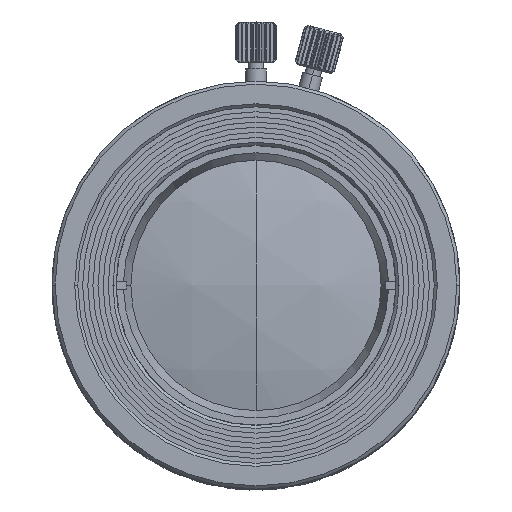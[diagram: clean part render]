
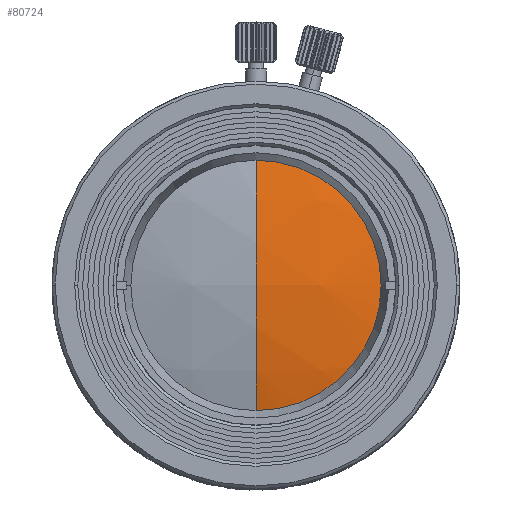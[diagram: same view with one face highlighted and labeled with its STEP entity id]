
A CAD part, top view. The second image highlights one B-rep face of the part: STEP entity #80724.
In plain terms, the highlighted spherical face has radius 51.4 mm.
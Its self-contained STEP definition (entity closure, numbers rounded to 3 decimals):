
#1374 = CIRCLE ( 'NONE', #46376, 12.475 ) ;
#1436 = FACE_OUTER_BOUND ( 'NONE', #57505, .T. ) ;
#3455 = DIRECTION ( 'NONE',  ( -1., 0., 0. ) ) ;
#4111 = EDGE_CURVE ( 'NONE', #31681, #33726, #34911, .T. ) ;
#6821 = ORIENTED_EDGE ( 'NONE', *, *, #48130, .F. ) ;
#13274 = EDGE_CURVE ( 'NONE', #68894, #31681, #1374, .T. ) ;
#15537 = CARTESIAN_POINT ( 'NONE',  ( 0., 0., -26.75 ) ) ;
#22340 = DIRECTION ( 'NONE',  ( 0., 1., 0. ) ) ;
#25031 = DIRECTION ( 'NONE',  ( 0., 0., -1. ) ) ;
#30362 = CARTESIAN_POINT ( 'NONE',  ( 0., 0., -26.75 ) ) ;
#30444 = CARTESIAN_POINT ( 'NONE',  ( 0., -12.475, 23.113 ) ) ;
#31681 = VERTEX_POINT ( 'NONE', #30444 ) ;
#31814 = AXIS2_PLACEMENT_3D ( 'NONE', #37981, #78983, #85825 ) ;
#32536 = ORIENTED_EDGE ( 'NONE', *, *, #13274, .F. ) ;
#33726 = VERTEX_POINT ( 'NONE', #67227 ) ;
#34911 = CIRCLE ( 'NONE', #60967, 51.4 ) ;
#36710 = CIRCLE ( 'NONE', #76065, 51.4 ) ;
#37190 = DIRECTION ( 'NONE',  ( 0., 0., 1. ) ) ;
#37981 = CARTESIAN_POINT ( 'NONE',  ( 0., 0., -26.75 ) ) ;
#44189 = DIRECTION ( 'NONE',  ( 0., 0., -1. ) ) ;
#46336 = ORIENTED_EDGE ( 'NONE', *, *, #74555, .T. ) ;
#46376 = AXIS2_PLACEMENT_3D ( 'NONE', #65787, #25031, #72585 ) ;
#48130 = EDGE_CURVE ( 'NONE', #61993, #68894, #52170, .T. ) ;
#52170 = CIRCLE ( 'NONE', #78194, 12.475 ) ;
#53541 = SPHERICAL_SURFACE ( 'NONE', #31814, 51.4 ) ;
#53811 = ORIENTED_EDGE ( 'NONE', *, *, #4111, .F. ) ;
#57505 = EDGE_LOOP ( 'NONE', ( #6821, #46336, #53811, #32536 ) ) ;
#60967 = AXIS2_PLACEMENT_3D ( 'NONE', #30362, #77895, #37190 ) ;
#61993 = VERTEX_POINT ( 'NONE', #87745 ) ;
#63110 = DIRECTION ( 'NONE',  ( 1., 0., 0. ) ) ;
#63954 = CARTESIAN_POINT ( 'NONE',  ( 12.475, 0., 23.113 ) ) ;
#65787 = CARTESIAN_POINT ( 'NONE',  ( 0., 0., 23.113 ) ) ;
#67227 = CARTESIAN_POINT ( 'NONE',  ( 0., 0., 24.65 ) ) ;
#68894 = VERTEX_POINT ( 'NONE', #63954 ) ;
#72585 = DIRECTION ( 'NONE',  ( -1., 0., 0. ) ) ;
#74555 = EDGE_CURVE ( 'NONE', #61993, #33726, #36710, .T. ) ;
#76065 = AXIS2_PLACEMENT_3D ( 'NONE', #15537, #63110, #22340 ) ;
#77895 = DIRECTION ( 'NONE',  ( -1., 0., 0. ) ) ;
#78194 = AXIS2_PLACEMENT_3D ( 'NONE', #84913, #44189, #3455 ) ;
#78983 = DIRECTION ( 'NONE',  ( 1., 0., 0. ) ) ;
#80724 = ADVANCED_FACE ( 'NONE', ( #1436 ), #53541, .T. ) ;
#84913 = CARTESIAN_POINT ( 'NONE',  ( 0., 0., 23.113 ) ) ;
#85825 = DIRECTION ( 'NONE',  ( 0., -1., 0. ) ) ;
#87745 = CARTESIAN_POINT ( 'NONE',  ( 0., 12.475, 23.113 ) ) ;
